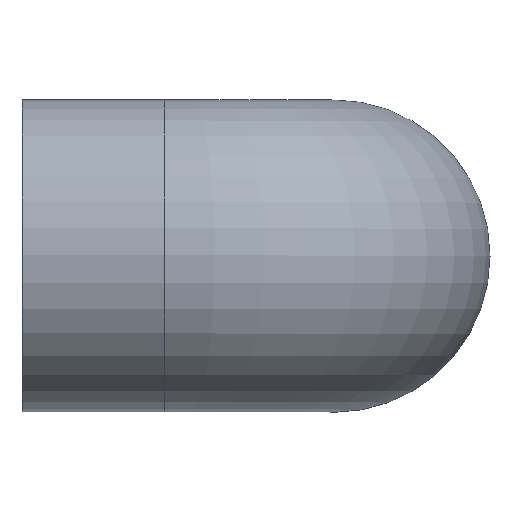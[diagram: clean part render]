
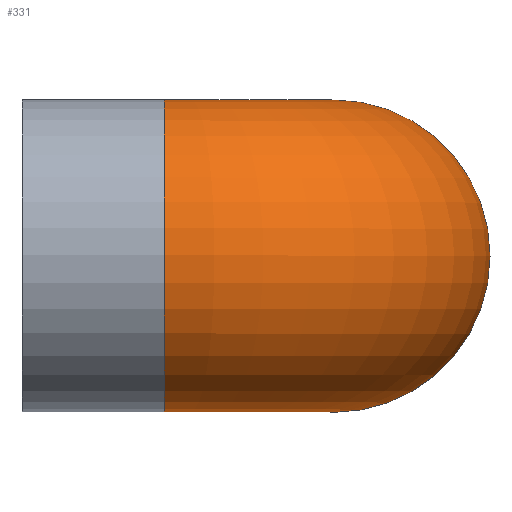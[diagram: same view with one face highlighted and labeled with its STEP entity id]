
A CAD part, top view. The second image highlights one B-rep face of the part: STEP entity #331.
In plain terms, the highlighted toroidal (fillet/blend) face has major radius 12.5 mm and minor radius 11.5 mm.
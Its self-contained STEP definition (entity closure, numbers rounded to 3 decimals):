
#19=FACE_BOUND('',#92,.T.);
#24=TOROIDAL_SURFACE('',#357,12.5,11.5);
#65=FACE_OUTER_BOUND('',#91,.T.);
#91=EDGE_LOOP('',(#287));
#92=EDGE_LOOP('',(#288));
#110=CIRCLE('',#356,11.5);
#111=CIRCLE('',#358,11.5);
#164=VERTEX_POINT('',#7476);
#165=VERTEX_POINT('',#7479);
#208=EDGE_CURVE('',#164,#164,#110,.T.);
#209=EDGE_CURVE('',#165,#165,#111,.T.);
#287=ORIENTED_EDGE('',*,*,#208,.F.);
#288=ORIENTED_EDGE('',*,*,#209,.T.);
#331=ADVANCED_FACE('',(#65,#19),#24,.T.);
#356=AXIS2_PLACEMENT_3D('',#7477,#409,#410);
#357=AXIS2_PLACEMENT_3D('',#7478,#411,#412);
#358=AXIS2_PLACEMENT_3D('',#7480,#413,#414);
#409=DIRECTION('center_axis',(-1.,0.,0.));
#410=DIRECTION('ref_axis',(0.,0.,-1.));
#411=DIRECTION('center_axis',(0.,-1.,0.));
#412=DIRECTION('ref_axis',(0.,0.,-1.));
#413=DIRECTION('center_axis',(0.,0.,1.));
#414=DIRECTION('ref_axis',(-1.,0.,0.));
#7476=CARTESIAN_POINT('',(-12.5,0.,34.5));
#7477=CARTESIAN_POINT('Origin',(-12.5,0.,23.));
#7478=CARTESIAN_POINT('Origin',(-12.5,0.,10.5));
#7479=CARTESIAN_POINT('',(11.5,0.,10.5));
#7480=CARTESIAN_POINT('Origin',(0.,0.,10.5));
